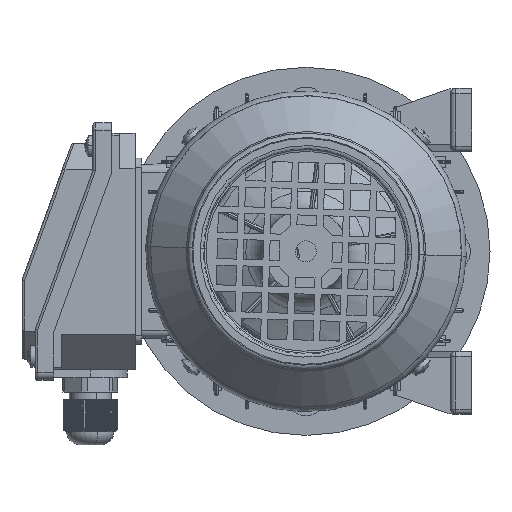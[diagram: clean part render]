
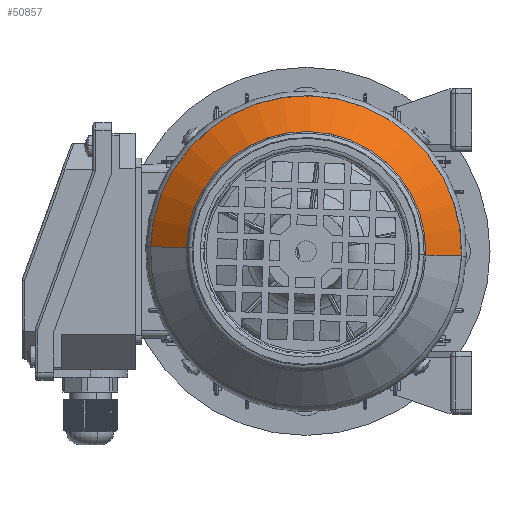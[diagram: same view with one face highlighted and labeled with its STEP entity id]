
A CAD part, left-side view. The second image highlights one B-rep face of the part: STEP entity #50857.
In plain terms, the highlighted conical face has half-angle 45 degrees and reference radius 59.243 mm.
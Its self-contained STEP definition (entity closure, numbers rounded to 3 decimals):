
#1001 = DIRECTION ( 'NONE',  ( 0., -1., -0.03 ) ) ;
#3102 = LINE ( 'NONE', #135533, #76478 ) ;
#5583 = ORIENTED_EDGE ( 'NONE', *, *, #50046, .F. ) ;
#7597 = DIRECTION ( 'NONE',  ( 0.707, 0.707, 0.021 ) ) ;
#7757 = CONICAL_SURFACE ( 'NONE', #136941, 59.243, 0.785 ) ;
#16031 = CARTESIAN_POINT ( 'NONE',  ( -73.364, -2.302, 0. ) ) ;
#19360 = CARTESIAN_POINT ( 'NONE',  ( -73.364, 56.914, 1.781 ) ) ;
#22053 = LINE ( 'NONE', #120166, #72883 ) ;
#23299 = VERTEX_POINT ( 'NONE', #89973 ) ;
#25237 = CARTESIAN_POINT ( 'NONE',  ( -73.364, -2.302, 0. ) ) ;
#37381 = DIRECTION ( 'NONE',  ( 0., -1., -0.03 ) ) ;
#43906 = EDGE_CURVE ( 'NONE', #23299, #52560, #22053, .T. ) ;
#49939 = AXIS2_PLACEMENT_3D ( 'NONE', #25237, #91465, #1001 ) ;
#50046 = EDGE_CURVE ( 'NONE', #52560, #108229, #141469, .T. ) ;
#50857 = ADVANCED_FACE ( 'NONE', ( #127858 ), #7757, .T. ) ;
#52560 = VERTEX_POINT ( 'NONE', #19360 ) ;
#60198 = EDGE_CURVE ( 'NONE', #23299, #100624, #141459, .T. ) ;
#72655 = DIRECTION ( 'NONE',  ( 1., 0., 0. ) ) ;
#72883 = VECTOR ( 'NONE', #7597, 1000. ) ;
#76478 = VECTOR ( 'NONE', #123779, 1000. ) ;
#83094 = EDGE_CURVE ( 'NONE', #100624, #108229, #3102, .T. ) ;
#89973 = CARTESIAN_POINT ( 'NONE',  ( -87.021, 43.263, 1.37 ) ) ;
#91465 = DIRECTION ( 'NONE',  ( 1., 0., 0. ) ) ;
#94803 = DIRECTION ( 'NONE',  ( 0., -1., -0.03 ) ) ;
#98379 = ORIENTED_EDGE ( 'NONE', *, *, #83094, .T. ) ;
#100624 = VERTEX_POINT ( 'NONE', #110908 ) ;
#105850 = DIRECTION ( 'NONE',  ( 1., 0., 0. ) ) ;
#106290 = ORIENTED_EDGE ( 'NONE', *, *, #43906, .F. ) ;
#108229 = VERTEX_POINT ( 'NONE', #144980 ) ;
#110908 = CARTESIAN_POINT ( 'NONE',  ( -87.021, -47.867, -1.37 ) ) ;
#113956 = CARTESIAN_POINT ( 'NONE',  ( -87.021, -2.302, 0. ) ) ;
#120166 = CARTESIAN_POINT ( 'NONE',  ( -73.364, 56.914, 1.781 ) ) ;
#123444 = ORIENTED_EDGE ( 'NONE', *, *, #60198, .T. ) ;
#123779 = DIRECTION ( 'NONE',  ( 0.707, -0.707, -0.021 ) ) ;
#127858 = FACE_OUTER_BOUND ( 'NONE', #129359, .T. ) ;
#129359 = EDGE_LOOP ( 'NONE', ( #106290, #123444, #98379, #5583 ) ) ;
#135533 = CARTESIAN_POINT ( 'NONE',  ( -73.364, -61.518, -1.781 ) ) ;
#136811 = AXIS2_PLACEMENT_3D ( 'NONE', #113956, #105850, #94803 ) ;
#136941 = AXIS2_PLACEMENT_3D ( 'NONE', #16031, #72655, #37381 ) ;
#141459 = CIRCLE ( 'NONE', #136811, 45.586 ) ;
#141469 = CIRCLE ( 'NONE', #49939, 59.243 ) ;
#144980 = CARTESIAN_POINT ( 'NONE',  ( -73.364, -61.518, -1.781 ) ) ;
